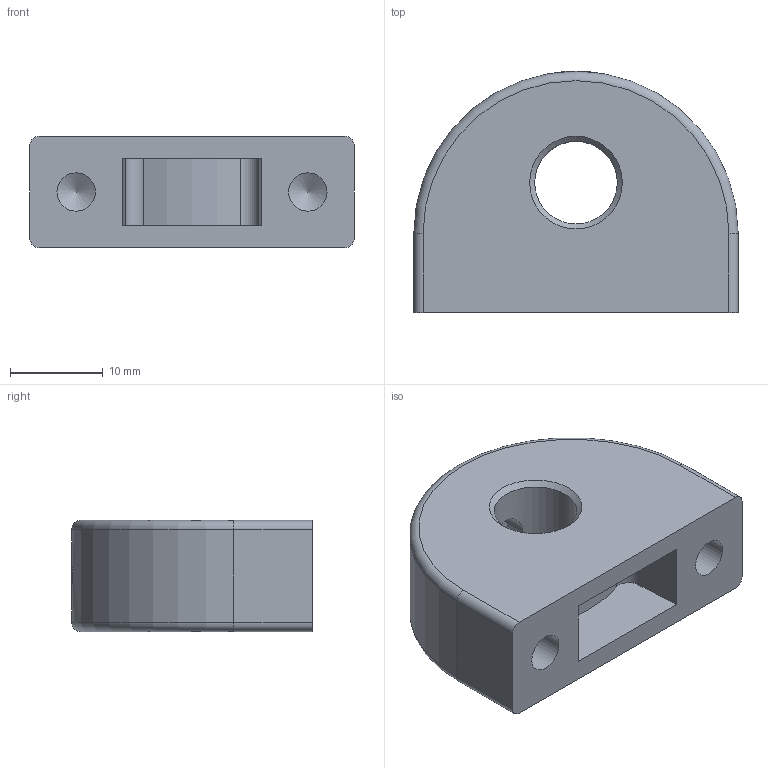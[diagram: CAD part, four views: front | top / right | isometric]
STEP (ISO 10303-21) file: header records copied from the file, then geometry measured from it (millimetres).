
FILE_DESCRIPTION( ( 'STEP AP203' ), '1' );
FILE_NAME( 'C:/Temp/Ganter_Step_05_03_2020/data/3_1/gn412_1/Mounting block GN 412.1-35-M10x1-2.stp', '2020-03-12T08:30:55', ( 'License CC BY-ND 4.0' ), ( 'CADENAS' ), ' ', 'PARTsolutions', ' ' );
FILE_SCHEMA( ( 'CONFIG_CONTROL_DESIGN' ) );
Length unit declared in the file: millimetre
Products named in the file (1): _Mounting block GN 412.1-35-M10x1-2
Bounding box: 35 x 26 x 12 mm (x, y, z)
Volume: 7437.8 mm3; surface area: 3649.7 mm2
Topology: 1 solids, 1 shells, 43 faces, 96 edges, 60 vertices
Faces by surface type: plane 19, cylinder 15, cone 7, torus 2
Full cylindrical faces by diameter (mm): 2.5 x1, 4 x2, 4.134 x2, 8.917 x1, 10.2 x1
Entity records: 1258 total; most frequent: CARTESIAN_POINT 290, DIRECTION 200, ORIENTED_EDGE 160, EDGE_CURVE 80, AXIS2_PLACEMENT_3D 78, EDGE_LOOP 64, VERTEX_POINT 60, FACE_OUTER_BOUND 50
